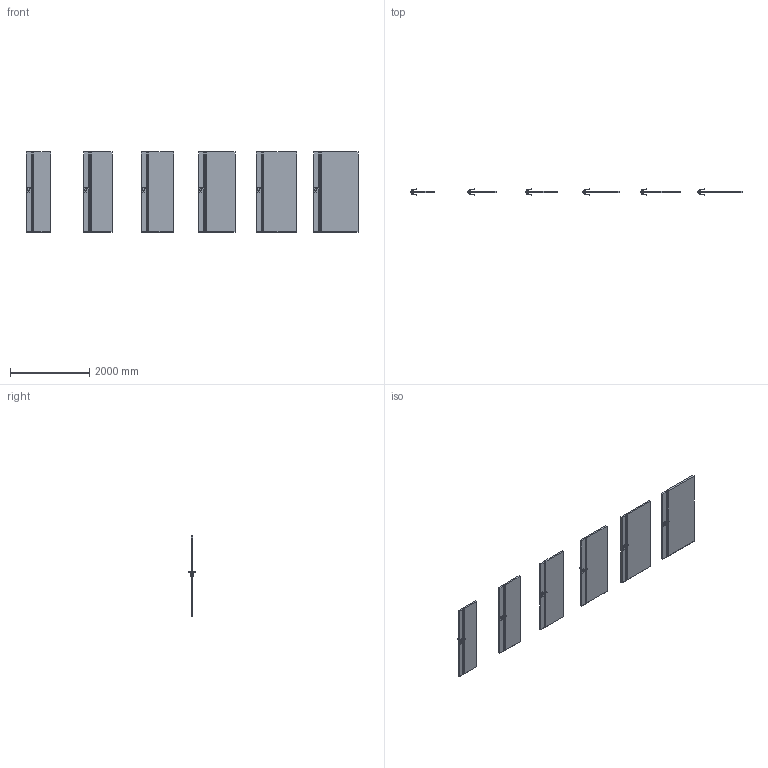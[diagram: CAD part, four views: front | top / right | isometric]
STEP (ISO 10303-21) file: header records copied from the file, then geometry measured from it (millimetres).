
FILE_DESCRIPTION(/* description */ (''),/* implementation_level */ '2;1');
FILE_NAME(/* name */ '049603_A_2-Skrzydło LINE model B.1_ polska norma _PN__ bezprzylgowe..stp',/* time_stamp */ '2024-03-19T12:51:04+01:00',/* author */ (''),/* organization */ (''),/* preprocessor_version */ 'ST-DEVELOPER v16',/* originating_system */ 'SIEMENS PLM Software NX 11.0',/* authorisation */ '');
FILE_SCHEMA (('AUTOMOTIVE_DESIGN { 1 0 10303 214 3 1 1 1 }'));
Length unit declared in the file: millimetre
Products named in the file (1): bkni0750A893l9ox
Bounding box: 8368 x 153.27 x 2017.01 mm (x, y, z)
Volume: 413447115.7 mm3; surface area: 23835361.1 mm2
Topology: 66 solids, 66 shells, 1416 faces, 3324 edges, 1920 vertices
Faces by surface type: plane 792, cylinder 264, bspline 192, sphere 168
Entity records: 45713 total; most frequent: CARTESIAN_POINT 14917, ORIENTED_EDGE 6312, DIRECTION 5966, EDGE_CURVE 3156, LINE 2076, VECTOR 2076, AXIS2_PLACEMENT_3D 1945, VERTEX_POINT 1920
